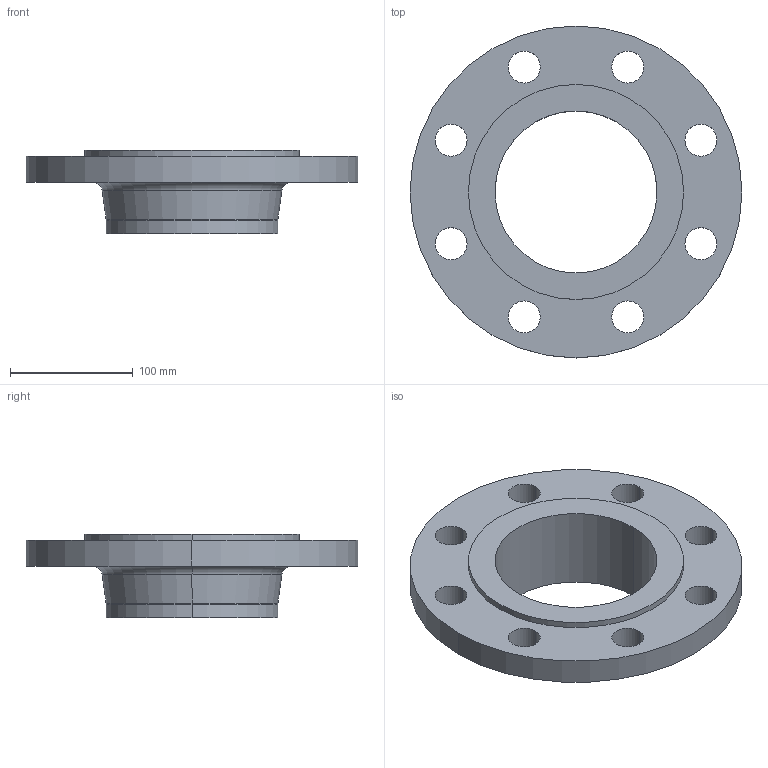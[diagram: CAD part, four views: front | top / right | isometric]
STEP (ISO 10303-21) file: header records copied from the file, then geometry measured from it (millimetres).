
FILE_DESCRIPTION (( 'STEP AP214' ), '1' );
FILE_NAME ('PN40 DN125 Type 11 - Type E Face.STEP', '2019-01-02T19:24:22', ( '' ), ( '' ), 'SwSTEP 2.0', 'SolidWorks 2019', '' );
FILE_SCHEMA (( 'AUTOMOTIVE_DESIGN' ));
Length unit declared in the file: millimetre
Products named in the file (1): PN40 DN125 Type 11 - Type E Face
Bounding box: 270 x 270 x 68 mm (x, y, z)
Volume: 984055.6 mm3; surface area: 157134.9 mm2
Topology: 1 solids, 1 shells, 34 faces, 84 edges, 54 vertices
Faces by surface type: cylinder 24, torus 4, plane 4, cone 2
Entity records: 1108 total; most frequent: DIRECTION 212, CARTESIAN_POINT 173, ORIENTED_EDGE 168, AXIS2_PLACEMENT_3D 93, EDGE_CURVE 84, CIRCLE 58, EDGE_LOOP 54, VERTEX_POINT 54
